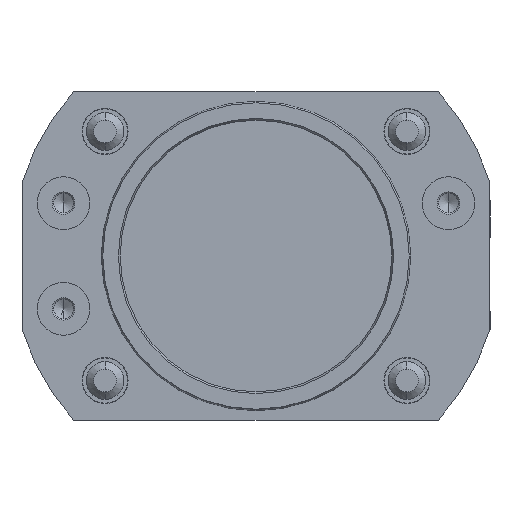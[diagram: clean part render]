
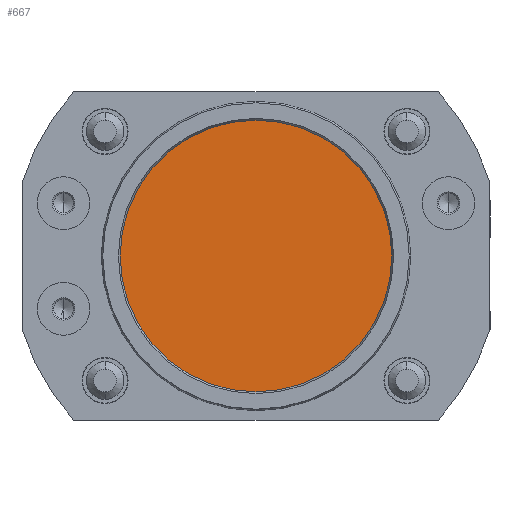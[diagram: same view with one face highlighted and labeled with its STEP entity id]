
A CAD part, front view. The second image highlights one B-rep face of the part: STEP entity #667.
In plain terms, the highlighted planar face has unit normal (0, -1, 0).
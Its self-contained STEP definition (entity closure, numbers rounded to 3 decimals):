
#661 = EDGE_LOOP ( 'NONE', ( #679, #670 ) ) ;
#667 = ADVANCED_FACE ( 'NONE', ( #3494 ), #3502, .T. ) ;
#669 = EDGE_CURVE ( 'NONE', #914, #1011, #3501, .T. ) ;
#670 = ORIENTED_EDGE ( 'NONE', *, *, #963, .F. ) ;
#679 = ORIENTED_EDGE ( 'NONE', *, *, #669, .F. ) ;
#914 = VERTEX_POINT ( 'NONE', #3970 ) ;
#963 = EDGE_CURVE ( 'NONE', #1011, #914, #4068, .T. ) ;
#1011 = VERTEX_POINT ( 'NONE', #4170 ) ;
#3450 = CARTESIAN_POINT ( 'NONE',  ( 0., 3., 0. ) ) ;
#3483 = DIRECTION ( 'NONE',  ( 0., 0., 1. ) ) ;
#3486 = DIRECTION ( 'NONE',  ( 0., 0., -1. ) ) ;
#3487 = DIRECTION ( 'NONE',  ( 0., -1., 0. ) ) ;
#3488 = AXIS2_PLACEMENT_3D ( 'NONE', #3450, #3496, #3483 ) ;
#3492 = CARTESIAN_POINT ( 'NONE',  ( 0., 3., 0. ) ) ;
#3493 = AXIS2_PLACEMENT_3D ( 'NONE', #3492, #3487, #3486 ) ;
#3494 = FACE_OUTER_BOUND ( 'NONE', #661, .T. ) ;
#3496 = DIRECTION ( 'NONE',  ( 0., 1., 0. ) ) ;
#3501 = CIRCLE ( 'NONE', #3488, 18. ) ;
#3502 = PLANE ( 'NONE',  #3493 ) ;
#3970 = CARTESIAN_POINT ( 'NONE',  ( 0., 3., 18. ) ) ;
#4064 = DIRECTION ( 'NONE',  ( 0., 0., 1. ) ) ;
#4065 = DIRECTION ( 'NONE',  ( 0., 1., 0. ) ) ;
#4066 = CARTESIAN_POINT ( 'NONE',  ( 0., 3., 0. ) ) ;
#4067 = AXIS2_PLACEMENT_3D ( 'NONE', #4066, #4065, #4064 ) ;
#4068 = CIRCLE ( 'NONE', #4067, 18. ) ;
#4170 = CARTESIAN_POINT ( 'NONE',  ( 0., 3., -18. ) ) ;
